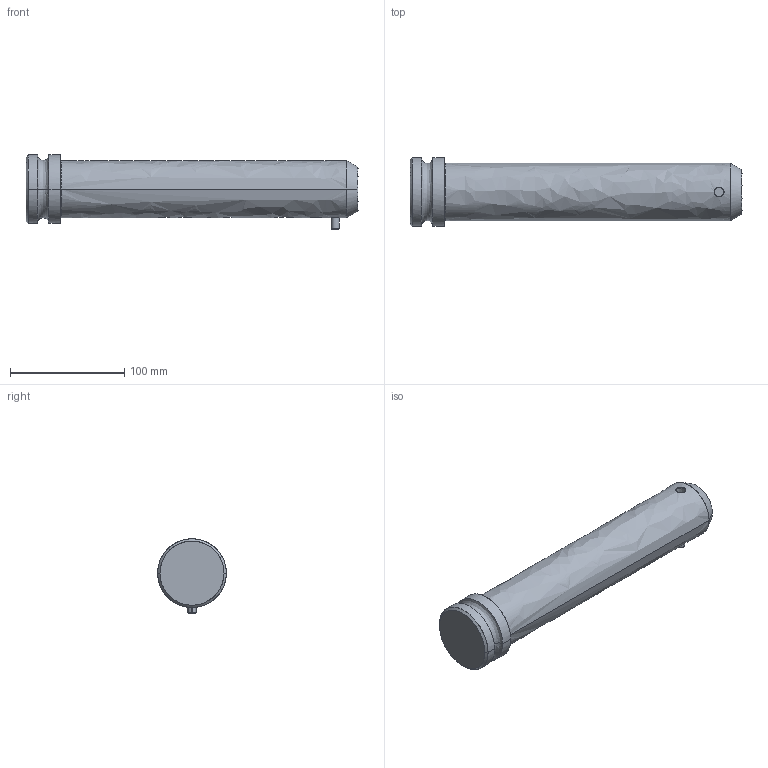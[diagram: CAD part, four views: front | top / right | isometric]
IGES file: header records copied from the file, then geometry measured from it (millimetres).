
Global section: file name: E:\UnigraphicsGraphicData\MISUMI_PRESS-PARTS\IGES\3d_hlfb50_04123_r00.igs; native system: NX V5.0; preprocessor: UGS NX IGES V5.0; author: MISUMI; date: 20110105.161015; units: millimetre
Bounding box: 290 x 60 x 65 mm (x, y, z)
Surface area: 54115.1 mm2 (no closed solid volume)
Topology: 0 solids, 0 shells, 44 faces, 286 edges, 286 vertices
Faces by surface type: bspline 44
